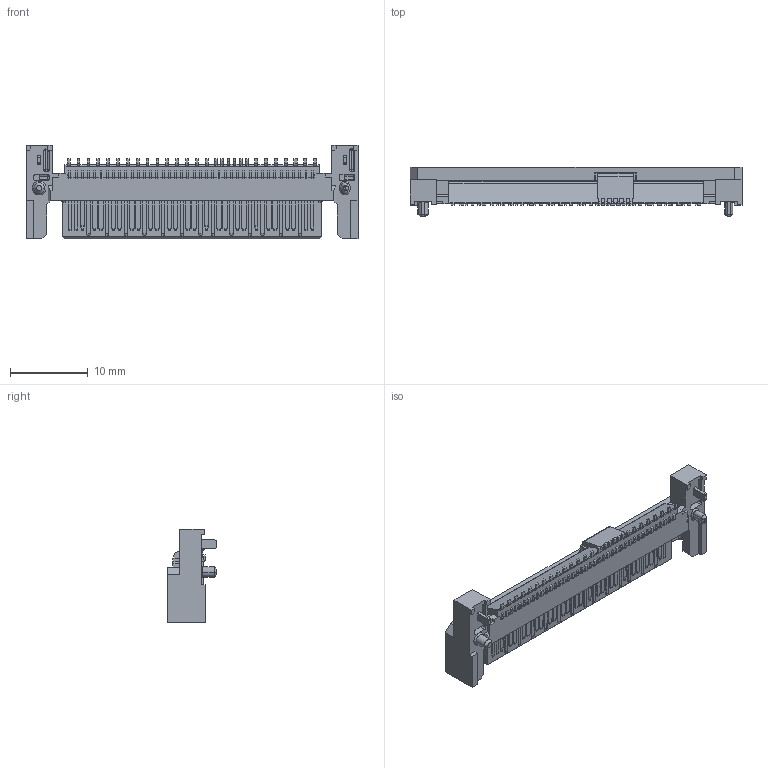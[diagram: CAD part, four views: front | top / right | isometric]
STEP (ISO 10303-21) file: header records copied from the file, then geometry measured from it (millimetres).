
FILE_DESCRIPTION((''),'2;1');
FILE_NAME('SFF-8639_PCIE5_0_PLUG_CONN_CUST','2026-07-20T19:47:49',('39002408'),(''),'CREO PARAMETRIC BY PTC INC, 2019471','CREO PARAMETRIC BY PTC INC, 2019471','');
FILE_SCHEMA(('AUTOMOTIVE_DESIGN { 1 0 10303 214 1 1 1 1 }'));
Length unit declared in the file: millimetre
Products named in the file (1): SFF-8639_PCIE5_0_PLUG_CONN_CUST
Bounding box: 42.76 x 6.4 x 12.1 mm (x, y, z)
Volume: 969.6 mm3; surface area: 1701.9 mm2
Topology: 1 solids, 1 shells, 1844 faces, 5287 edges, 3437 vertices
Faces by surface type: plane 1391, cylinder 305, extrusion 110, cone 20, sphere 18
Entity records: 60140 total; most frequent: CARTESIAN_POINT 11899, ORIENTED_EDGE 10530, DIRECTION 9136, EDGE_CURVE 5265, VECTOR 4492, LINE 4382, VERTEX_POINT 3437, AXIS2_PLACEMENT_3D 2322
